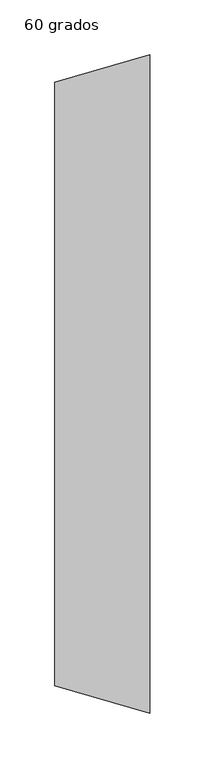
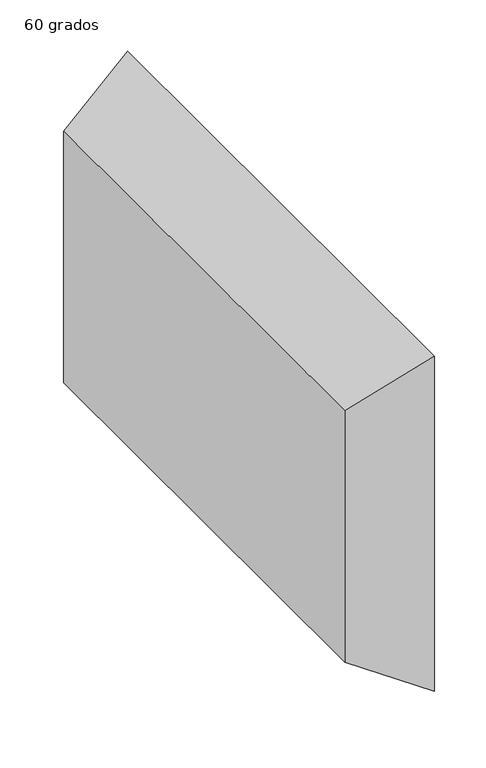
"""IFC4 building model written with IfcOpenShell, lengths in millimetres: duct fitting geometry, M_Transición rectangular - Ángulo : 60 grados."""

from ifc_helpers import new_model, si_unit, origin, place, context, project, spatial, faceted_brep, source, transform, mapped, element, save


def duct_fitting_60_grados_75b97320(model_context):
    return source(origin(), model_context, "Body", "Brep", [
        faceted_brep([(86.6025404, -300.0, 200.0), (86.6025404, -300.0, -200.0), (86.6025404, 300.0, -200.0), (86.6025404, 300.0, 200.0), (0.0, -275.0, 150.0), (0.0, 275.0, 150.0), (0.0, 275.0, -150.0), (0.0, -275.0, -150.0)], [[[0, 1, 2, 3]], [[4, 5, 6, 7]], [[4, 7, 1, 0]], [[7, 6, 2, 1]], [[6, 5, 3, 2]], [[5, 4, 0, 3]]]),
    ])


if __name__ == "__main__":
    model = new_model("IFC4")
    model_context = context("Model", 3, world=origin())
    ifc_project = project(units=[si_unit("LENGTHUNIT", "METRE", prefix="MILLI")], contexts=[model_context])
    site = spatial("IfcSite", under=ifc_project)
    building = spatial("IfcBuilding", under=site)
    placement = place(None, origin())
    duct_fitting_60_grados_shape = duct_fitting_60_grados_75b97320(model_context)
    element("IfcDuctFitting", 1, ObjectType="M_Transición rectangular - Ángulo : 60 grados", at=placement, inside=building, context=model_context, shape_type="MappedRepresentation", body=[
        mapped(duct_fitting_60_grados_shape, transform((0.0, 0.0, 0.0), x_axis=(1.0, 0.0, 0.0), y_axis=(0.0, 1.0, 0.0), z_axis=(0.0, 0.0, 1.0))),
    ])
    save(model, "model.ifc")
